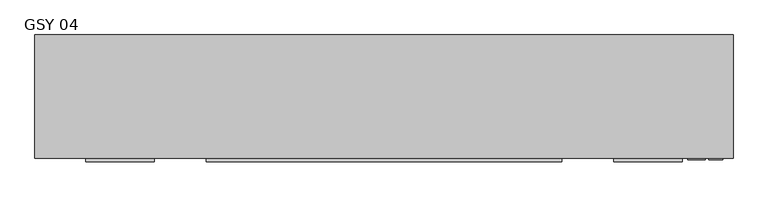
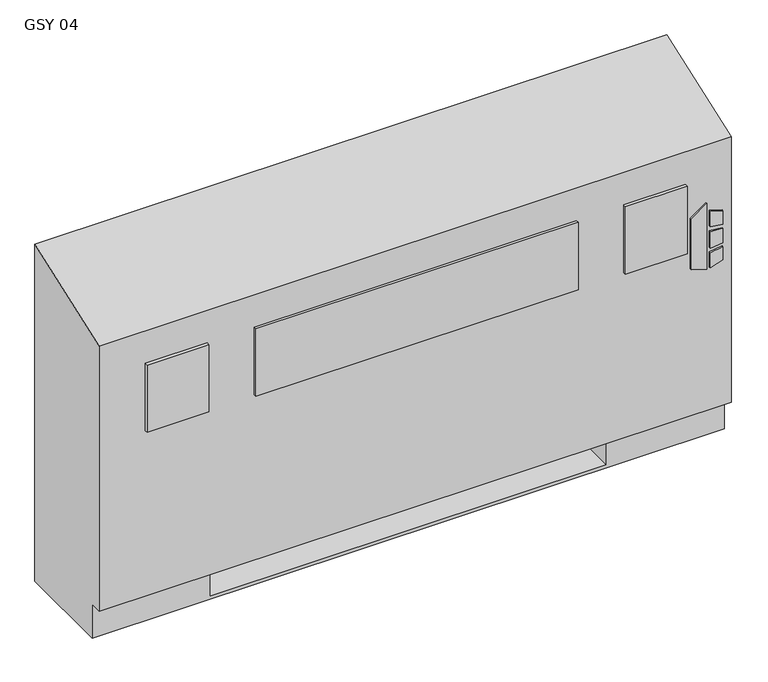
"""IFC4 building model written with IfcOpenShell, lengths in millimetres: proxy geometry, Vertical_Fan_Coil_Unit_-_GSY_-_IEC_-_2-Pipe_FS-FR_LH_2022 : GSY 04."""

from ifc_helpers import new_model, si_unit, point, frame, frame_2d, origin, place, context, project, spatial, polyline, circle_curve, trimmed, segment, composite_curve, outline, extrude, source, transform, mapped, element, save
from ifc_brep_helpers import plane_surface, revolved_surface, advanced_brep


def gsy_04_61f203fc(model_context):
    return source(origin(), model_context, "Body", "SolidModel", [
        extrude(outline(polyline([(391.6086829, 716.0368862), (381.6606126, 748.2102728), (523.831537, 748.2102728), (500.8095309, 716.0368862), (391.6086829, 716.0368862)])), frame((0.0, 12.7, 0.0), z_axis=(0.0, 1.0, 0.0), x_axis=(0.0, 0.0, 1.0)), (0.0, 0.0, 1.0), 3.175),
        extrude(outline(polyline([(470.6079683, 754.9686058), (467.4055757, 781.05), (496.6344168, 781.05), (504.6988318, 754.9686058), (470.6079683, 754.9686058)])), frame((0.0, 12.7, 0.0), z_axis=(0.0, 1.0, 0.0), x_axis=(0.0, 0.0, 1.0)), (0.0, 0.0, 1.0), 3.175),
        extrude(outline(polyline([(418.7444414, 781.05), (415.0789404, 754.9686058), (381.6606126, 754.9686058), (390.2948498, 781.05), (418.7444414, 781.05)])), frame((0.0, 12.7, 0.0), z_axis=(0.0, 1.0, 0.0), x_axis=(0.0, 0.0, 1.0)), (0.0, 0.0, 1.0), 3.175),
        extrude(outline(polyline([(458.0596028, 781.05), (460.3414292, 754.9686058), (424.4038806, 754.9686058), (427.1451456, 781.05), (458.0596028, 781.05)])), frame((0.0, 12.7, 0.0), z_axis=(0.0, 1.0, 0.0), x_axis=(0.0, 0.0, 1.0)), (0.0, 0.0, 1.0), 3.175),
        extrude(outline(polyline([(-274.193, 9.525), (-401.193, 9.525), (-401.193, 15.875), (-274.193, 15.875), (-274.193, 9.525)])), frame((0.0, 0.0, 431.8), z_axis=(0.0, 0.0, 1.0), x_axis=(1.0, 0.0, 0.0)), (0.0, 0.0, 1.0), 146.05),
        extrude(outline(polyline([(482.6, 9.525), (-177.8, 9.525), (-177.8, 15.875), (482.6, 15.875), (482.6, 9.525)])), frame((0.0, 0.0, 431.8), z_axis=(0.0, 0.0, 1.0), x_axis=(1.0, 0.0, 0.0)), (0.0, 0.0, 1.0), 146.05),
        extrude(outline(polyline([(705.993, 9.525), (578.993, 9.525), (578.993, 15.875), (705.993, 15.875), (705.993, 9.525)])), frame((0.0, 0.0, 431.8), z_axis=(0.0, 0.0, 1.0), x_axis=(1.0, 0.0, 0.0)), (0.0, 0.0, 1.0), 146.05),
        extrude(outline(polyline([(558.8, 81.534), (558.8, 223.266), (679.45, 223.266), (679.45, 81.534), (558.8, 81.534)])), frame((0.0, 0.0, 327.025), z_axis=(0.0, 0.0, 1.0), x_axis=(1.0, 0.0, 0.0)), (0.0, 0.0, 1.0), 260.35),
        extrude(outline(composite_curve([segment(trimmed(circle_curve(frame_2d((80.645, 397.002)), 7.9375), [point((80.645, 404.9395))], [point((80.645, 389.0645))], False, "CARTESIAN"), True, "CONTINUOUS"), segment(trimmed(circle_curve(frame_2d((80.645, 397.002)), 7.9375), [point((80.645, 389.0645))], [point((80.645, 404.9395))], False, "CARTESIAN"), True, "CONTINUOUS")], self_intersect=False)), frame((-304.8, 0.0, 0.0), z_axis=(1.0, 0.0, 0.0), x_axis=(0.0, 1.0, 0.0)), (0.0, 0.0, 1.0), 50.8),
        extrude(outline(composite_curve([segment(trimmed(circle_curve(frame_2d((156.8958, 535.8892)), 7.9375), [point((156.8958, 543.8267))], [point((156.8958, 527.9517))], False, "CARTESIAN"), True, "CONTINUOUS"), segment(trimmed(circle_curve(frame_2d((156.8958, 535.8892)), 7.9375), [point((156.8958, 527.9517))], [point((156.8958, 543.8267))], False, "CARTESIAN"), True, "CONTINUOUS")], self_intersect=False)), frame((-304.8, 0.0, 0.0), z_axis=(1.0, 0.0, 0.0), x_axis=(0.0, 1.0, 0.0)), (0.0, 0.0, 1.0), 50.8),
        advanced_brep(
        [(-495.3, 244.475, 0.0), (800.1, 244.475, 0.0), (800.1, 41.275, 0.0), (-495.3, 41.275, 0.0), (-495.3, 244.475, 730.25), (800.1, 244.475, 730.25), (558.8, 244.475, 73.025), (787.4, 244.475, 73.025), (787.4, 244.475, 654.05), (558.8, 244.475, 654.05), (558.8, 244.475, 414.8650565), (587.375, 244.475, 414.8650565), (587.375, 244.475, 385.2349435), (558.8, 244.475, 385.2349435), (558.8, 244.475, 287.3375), (587.375, 244.475, 287.3375), (587.375, 244.475, 258.7625), (558.8, 244.475, 258.7625), (558.8, 244.475, 141.2875), (587.375, 244.475, 141.2875), (587.375, 244.475, 112.7125), (558.8, 244.475, 112.7125), (-254.0, 244.475, 654.05), (-482.6, 244.475, 654.05), (-482.6, 244.475, 73.025), (-254.0, 244.475, 73.025), (-254.0, 244.475, 112.7125), (-282.575, 244.475, 112.7125), (-282.575, 244.475, 141.2875), (-254.0, 244.475, 141.2875), (-254.0, 244.475, 258.7625), (-282.575, 244.475, 258.7625), (-282.575, 244.475, 287.3375), (-254.0, 244.475, 287.3375), (-254.0, 244.475, 385.2349435), (-282.575, 244.475, 385.2349435), (-282.575, 244.475, 414.8650565), (-254.0, 244.475, 414.8650565), (577.0626, 244.475, 127.0), (565.9374, 244.475, 127.0), (577.0626, 244.475, 400.05), (565.9374, 244.475, 400.05), (577.0626, 244.475, 273.05), (565.9374, 244.475, 273.05), (-261.1374, 244.475, 127.0), (-272.2626, 244.475, 127.0), (-261.1374, 244.475, 273.05), (-272.2626, 244.475, 273.05), (-261.1374, 244.475, 400.05), (-272.2626, 244.475, 400.05), (-495.3, 41.275, 73.025), (-495.3, 15.875, 73.025), (-495.3, 15.875, 647.7), (800.1, 15.875, 73.025), (800.1, 15.875, 647.7), (800.1, 41.275, 73.025), (-254.0, 41.275, 73.025), (-254.0, 225.425, 73.025), (558.8, 225.425, 73.025), (558.8, 41.275, 73.025), (558.8, 41.275, 6.35), (-254.0, 41.275, 6.35), (558.8, 41.275, 654.05), (787.4, 41.275, 654.05), (787.4, 41.275, 73.025), (558.8, 41.275, 73.025), (-254.0, 41.275, 654.05), (-254.0, 41.275, 73.025), (-482.6, 41.275, 73.025), (-482.6, 41.275, 654.05), (558.8, 225.425, 73.025), (558.8, 238.125, 112.7125), (558.8, 238.125, 141.2875), (558.8, 238.125, 258.7625), (558.8, 238.125, 287.3375), (558.8, 238.125, 385.2349435), (558.8, 238.125, 414.8650565), (-254.0, 225.425, 73.025), (-254.0, 238.125, 414.8650565), (-254.0, 238.125, 385.2349435), (-254.0, 238.125, 287.3375), (-254.0, 238.125, 258.7625), (-254.0, 238.125, 141.2875), (-254.0, 238.125, 112.7125), (-254.0, 225.425, 6.35), (558.8, 225.425, 6.35), (587.375, 238.125, 112.7125), (587.375, 238.125, 141.2875), (565.9374, 238.125, 127.0), (577.0626, 238.125, 127.0), (587.375, 238.125, 258.7625), (587.375, 238.125, 287.3375), (565.9374, 238.125, 273.05), (577.0626, 238.125, 273.05), (587.375, 238.125, 385.2349435), (587.375, 238.125, 414.8650565), (565.9374, 238.125, 400.05), (577.0626, 238.125, 400.05), (-282.575, 238.125, 141.2875), (-282.575, 238.125, 112.7125), (-272.2626, 238.125, 127.0), (-261.1374, 238.125, 127.0), (-282.575, 238.125, 287.3375), (-282.575, 238.125, 258.7625), (-272.2626, 238.125, 273.05), (-261.1374, 238.125, 273.05), (-282.575, 238.125, 414.8650565), (-282.575, 238.125, 385.2349435), (-272.2626, 238.125, 400.05), (-261.1374, 238.125, 400.05)],
        [
            (0, 1),
            (1, 2),
            (2, 3),
            (3, 0),
            (0, 4),
            (4, 5),
            (5, 1),
            (6, 7),
            (7, 8),
            (8, 9),
            (9, 10),
            (10, 11),
            (11, 12),
            (12, 13),
            (13, 14),
            (14, 15),
            (15, 16),
            (16, 17),
            (17, 18),
            (18, 19),
            (19, 20),
            (20, 21),
            (21, 6),
            (22, 23),
            (23, 24),
            (24, 25),
            (25, 26),
            (26, 27),
            (27, 28),
            (28, 29),
            (29, 30),
            (30, 31),
            (31, 32),
            (32, 33),
            (33, 34),
            (34, 35),
            (35, 36),
            (36, 37),
            (37, 22),
            (38, 39, circle_curve(frame((571.5, 244.475, 127.0), z_axis=(0.0, -1.0, 0.0), x_axis=(-1.0, 0.0, 0.0)), 5.5626)),
            (39, 38, circle_curve(frame((571.5, 244.475, 127.0), z_axis=(0.0, -1.0, 0.0), x_axis=(-1.0, 0.0, 0.0)), 5.5626)),
            (40, 41, circle_curve(frame((571.5, 244.475, 400.05), z_axis=(0.0, -1.0, 0.0), x_axis=(-1.0, 0.0, 0.0)), 5.5626)),
            (41, 40, circle_curve(frame((571.5, 244.475, 400.05), z_axis=(0.0, -1.0, 0.0), x_axis=(-1.0, 0.0, 0.0)), 5.5626)),
            (42, 43, circle_curve(frame((571.5, 244.475, 273.05), z_axis=(0.0, -1.0, 0.0), x_axis=(-1.0, 0.0, 0.0)), 5.5626)),
            (43, 42, circle_curve(frame((571.5, 244.475, 273.05), z_axis=(0.0, -1.0, 0.0), x_axis=(-1.0, 0.0, 0.0)), 5.5626)),
            (44, 45, circle_curve(frame((-266.7, 244.475, 127.0), z_axis=(0.0, -1.0, 0.0), x_axis=(-1.0, 0.0, 0.0)), 5.5626)),
            (45, 44, circle_curve(frame((-266.7, 244.475, 127.0), z_axis=(0.0, -1.0, 0.0), x_axis=(-1.0, 0.0, 0.0)), 5.5626)),
            (46, 47, circle_curve(frame((-266.7, 244.475, 273.05), z_axis=(0.0, -1.0, 0.0), x_axis=(-1.0, 0.0, 0.0)), 5.5626)),
            (47, 46, circle_curve(frame((-266.7, 244.475, 273.05), z_axis=(0.0, -1.0, 0.0), x_axis=(-1.0, 0.0, 0.0)), 5.5626)),
            (48, 49, circle_curve(frame((-266.7, 244.475, 400.05), z_axis=(0.0, -1.0, 0.0), x_axis=(-1.0, 0.0, 0.0)), 5.5626)),
            (49, 48, circle_curve(frame((-266.7, 244.475, 400.05), z_axis=(0.0, -1.0, 0.0), x_axis=(-1.0, 0.0, 0.0)), 5.5626)),
            (3, 50),
            (50, 51),
            (51, 52),
            (52, 4),
            (51, 53),
            (53, 54),
            (54, 52),
            (5, 54),
            (53, 55),
            (55, 2),
            (50, 56),
            (56, 57),
            (57, 58),
            (58, 59),
            (59, 55),
            (59, 60),
            (60, 61),
            (61, 56),
            (62, 63),
            (63, 64),
            (64, 65),
            (65, 62),
            (66, 67),
            (67, 68),
            (68, 69),
            (69, 66),
            (65, 70),
            (70, 6),
            (21, 71),
            (71, 72),
            (72, 18),
            (17, 73),
            (73, 74),
            (74, 14),
            (13, 75),
            (75, 76),
            (76, 10),
            (9, 62),
            (64, 7),
            (63, 8),
            (69, 23),
            (22, 66),
            (68, 24),
            (67, 77),
            (77, 25),
            (37, 78),
            (78, 79),
            (79, 34),
            (33, 80),
            (80, 81),
            (81, 30),
            (29, 82),
            (82, 83),
            (83, 26),
            (57, 84),
            (84, 85),
            (85, 58),
            (85, 60),
            (84, 61),
            (71, 86),
            (86, 87),
            (87, 72),
            (88, 89, circle_curve(frame((571.5, 238.125, 127.0), z_axis=(0.0, 1.0, 0.0), x_axis=(-1.0, 0.0, 0.0)), 5.5626)),
            (89, 88, circle_curve(frame((571.5, 238.125, 127.0), z_axis=(0.0, 1.0, 0.0), x_axis=(-1.0, 0.0, 0.0)), 5.5626)),
            (73, 90),
            (90, 91),
            (91, 74),
            (92, 93, circle_curve(frame((571.5, 238.125, 273.05), z_axis=(0.0, 1.0, 0.0), x_axis=(-1.0, 0.0, 0.0)), 5.5626)),
            (93, 92, circle_curve(frame((571.5, 238.125, 273.05), z_axis=(0.0, 1.0, 0.0), x_axis=(-1.0, 0.0, 0.0)), 5.5626)),
            (75, 94),
            (94, 95),
            (95, 76),
            (96, 97, circle_curve(frame((571.5, 238.125, 400.05), z_axis=(0.0, 1.0, 0.0), x_axis=(-1.0, 0.0, 0.0)), 5.5626)),
            (97, 96, circle_curve(frame((571.5, 238.125, 400.05), z_axis=(0.0, 1.0, 0.0), x_axis=(-1.0, 0.0, 0.0)), 5.5626)),
            (98, 99),
            (99, 83),
            (82, 98),
            (100, 101, circle_curve(frame((-266.7, 238.125, 127.0), z_axis=(0.0, 1.0, 0.0), x_axis=(-1.0, 0.0, 0.0)), 5.5626)),
            (101, 100, circle_curve(frame((-266.7, 238.125, 127.0), z_axis=(0.0, 1.0, 0.0), x_axis=(-1.0, 0.0, 0.0)), 5.5626)),
            (102, 103),
            (103, 81),
            (80, 102),
            (104, 105, circle_curve(frame((-266.7, 238.125, 273.05), z_axis=(0.0, 1.0, 0.0), x_axis=(-1.0, 0.0, 0.0)), 5.5626)),
            (105, 104, circle_curve(frame((-266.7, 238.125, 273.05), z_axis=(0.0, 1.0, 0.0), x_axis=(-1.0, 0.0, 0.0)), 5.5626)),
            (106, 107),
            (107, 79),
            (78, 106),
            (108, 109, circle_curve(frame((-266.7, 238.125, 400.05), z_axis=(0.0, 1.0, 0.0), x_axis=(-1.0, 0.0, 0.0)), 5.5626)),
            (109, 108, circle_curve(frame((-266.7, 238.125, 400.05), z_axis=(0.0, 1.0, 0.0), x_axis=(-1.0, 0.0, 0.0)), 5.5626)),
            (87, 19),
            (86, 20),
            (91, 15),
            (90, 16),
            (95, 11),
            (94, 12),
            (28, 98),
            (99, 27),
            (32, 102),
            (103, 31),
            (36, 106),
            (107, 35),
            (88, 39),
            (38, 89),
            (96, 41),
            (40, 97),
            (92, 43),
            (42, 93),
            (100, 45),
            (44, 101),
            (104, 47),
            (46, 105),
            (108, 49),
            (48, 109),
        ],
        [
            plane_surface(frame((-495.3, 244.475, 0.0), z_axis=(0.0, 0.0, -1.0), x_axis=(1.0, 0.0, 0.0))),
            plane_surface(frame((800.1, 244.475, 730.25), z_axis=(0.0, 1.0, 0.0), x_axis=(0.0, 0.0, -1.0))),
            plane_surface(frame((-495.3, 244.475, 730.25), z_axis=(-1.0, 0.0, 0.0), x_axis=(0.0, 0.0, -1.0))),
            plane_surface(frame((-495.3, 15.875, 730.25), z_axis=(0.0, -1.0, 0.0), x_axis=(0.0, 0.0, -1.0))),
            plane_surface(frame((800.1, 15.875, 730.25), z_axis=(1.0, 0.0, 0.0), x_axis=(0.0, 0.0, -1.0))),
            plane_surface(frame((-495.3, 15.875, 73.025), z_axis=(0.0, 0.0, -1.0), x_axis=(1.0, 0.0, 0.0))),
            plane_surface(frame((-495.3, 41.275, 73.025), z_axis=(0.0, -1.0, 0.0), x_axis=(1.0, 0.0, 0.0))),
            plane_surface(frame((558.8, 41.275, 654.05), z_axis=(0.0, 1.0, 0.0), x_axis=(0.0, 0.0, -1.0))),
            plane_surface(frame((558.8, 41.275, 654.05), z_axis=(1.0, 0.0, 0.0), x_axis=(0.0, 1.0, 0.0))),
            plane_surface(frame((558.8, 41.275, 73.025), z_axis=(0.0, 0.0, 1.0), x_axis=(0.0, 1.0, 0.0))),
            plane_surface(frame((787.4, 41.275, 73.025), z_axis=(-1.0, 0.0, 0.0), x_axis=(0.0, 1.0, 0.0))),
            plane_surface(frame((787.4, 41.275, 654.05), z_axis=(0.0, 0.0, -1.0), x_axis=(0.0, 1.0, 0.0))),
            plane_surface(frame((-254.0, 41.275, 654.05), z_axis=(0.0, 0.0, -1.0), x_axis=(0.0, 1.0, 0.0))),
            plane_surface(frame((-482.6, 41.275, 654.05), z_axis=(1.0, 0.0, 0.0), x_axis=(0.0, 1.0, 0.0))),
            plane_surface(frame((-482.6, 41.275, 73.025), z_axis=(0.0, 0.0, 1.0), x_axis=(0.0, 1.0, 0.0))),
            plane_surface(frame((-254.0, 41.275, 73.025), z_axis=(-1.0, 0.0, 0.0), x_axis=(0.0, 1.0, 0.0))),
            plane_surface(frame((558.8, 225.425, 73.025), z_axis=(0.0, -1.0, 0.0), x_axis=(0.0, 0.0, -1.0))),
            plane_surface(frame((558.8, 225.425, 73.025), z_axis=(-1.0, 0.0, 0.0), x_axis=(0.0, -1.0, 0.0))),
            plane_surface(frame((558.8, 225.425, 6.35), z_axis=(0.0, 0.0, 1.0), x_axis=(0.0, -1.0, 0.0))),
            plane_surface(frame((-254.0, 225.425, 6.35), z_axis=(1.0, 0.0, 0.0), x_axis=(0.0, -1.0, 0.0))),
            plane_surface(frame((587.375, 238.125, 141.2875), z_axis=(0.0, -1.0, 0.0), x_axis=(-1.0, 0.0, 0.0))),
            plane_surface(frame((558.8, 244.475, 141.2875), z_axis=(0.0, 0.0, 1.0), x_axis=(0.0, -1.0, 0.0))),
            plane_surface(frame((587.375, 244.475, 141.2875), z_axis=(1.0, 0.0, 0.0), x_axis=(0.0, -1.0, 0.0))),
            plane_surface(frame((587.375, 244.475, 112.7125), z_axis=(0.0, 0.0, -1.0), x_axis=(0.0, -1.0, 0.0))),
            plane_surface(frame((558.8, 244.475, 287.3375), z_axis=(0.0, 0.0, 1.0), x_axis=(0.0, -1.0, 0.0))),
            plane_surface(frame((587.375, 244.475, 287.3375), z_axis=(1.0, 0.0, 0.0), x_axis=(0.0, -1.0, 0.0))),
            plane_surface(frame((587.375, 244.475, 258.7625), z_axis=(0.0, 0.0, -1.0), x_axis=(0.0, -1.0, 0.0))),
            plane_surface(frame((558.8, 244.475, 414.8650565), z_axis=(0.0, 0.0, 1.0), x_axis=(0.0, -1.0, 0.0))),
            plane_surface(frame((587.375, 244.475, 414.8650565), z_axis=(1.0, 0.0, 0.0), x_axis=(0.0, -1.0, 0.0))),
            plane_surface(frame((587.375, 244.475, 385.2349435), z_axis=(0.0, 0.0, -1.0), x_axis=(0.0, -1.0, 0.0))),
            plane_surface(frame((-282.575, 244.475, 141.2875), z_axis=(0.0, 0.0, 1.0), x_axis=(0.0, -1.0, 0.0))),
            plane_surface(frame((-254.0, 244.475, 112.7125), z_axis=(0.0, 0.0, -1.0), x_axis=(0.0, -1.0, 0.0))),
            plane_surface(frame((-282.575, 244.475, 112.7125), z_axis=(-1.0, 0.0, 0.0), x_axis=(0.0, -1.0, 0.0))),
            plane_surface(frame((-282.575, 244.475, 287.3375), z_axis=(0.0, 0.0, 1.0), x_axis=(0.0, -1.0, 0.0))),
            plane_surface(frame((-254.0, 244.475, 258.7625), z_axis=(0.0, 0.0, -1.0), x_axis=(0.0, -1.0, 0.0))),
            plane_surface(frame((-282.575, 244.475, 258.7625), z_axis=(-1.0, 0.0, 0.0), x_axis=(0.0, -1.0, 0.0))),
            plane_surface(frame((-282.575, 244.475, 414.8650565), z_axis=(0.0, 0.0, 1.0), x_axis=(0.0, -1.0, 0.0))),
            plane_surface(frame((-254.0, 244.475, 385.2349435), z_axis=(0.0, 0.0, -1.0), x_axis=(0.0, -1.0, 0.0))),
            plane_surface(frame((-282.575, 244.475, 385.2349435), z_axis=(-1.0, 0.0, 0.0), x_axis=(0.0, -1.0, 0.0))),
            revolved_surface(polyline([(565.9374, 238.125, 127.0), (565.9374, 244.475, 127.0)]), (571.5, 244.475, 127.0), (0.0, -1.0, 0.0)),
            revolved_surface(polyline([(565.9374, 238.125, 400.05), (565.9374, 244.475, 400.05)]), (571.5, 244.475, 400.05), (0.0, -1.0, 0.0)),
            revolved_surface(polyline([(565.9374, 238.125, 273.05), (565.9374, 244.475, 273.05)]), (571.5, 244.475, 273.05), (0.0, -1.0, 0.0)),
            revolved_surface(polyline([(-272.26259999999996, 238.125, 127.0), (-272.26259999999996, 244.475, 127.0)]), (-266.7, 244.475, 127.0), (0.0, -1.0, 0.0)),
            revolved_surface(polyline([(-272.26259999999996, 238.125, 273.05), (-272.26259999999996, 244.475, 273.05)]), (-266.7, 244.475, 273.05), (0.0, -1.0, 0.0)),
            revolved_surface(polyline([(-272.26259999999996, 238.125, 400.05), (-272.26259999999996, 244.475, 400.05)]), (-266.7, 244.475, 400.05), (0.0, -1.0, 0.0)),
            plane_surface(frame((-495.3, 244.475, 730.25), z_axis=(0.0, -0.33964446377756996, 0.9405538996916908), x_axis=(1.0, 0.0, 0.0))),
        ],
        [
            (0, [[1, 2, 3, 4]]),
            (1, [[-1, 5, 6, 7], [8, 9, 10, 11, 12, 13, 14, 15, 16, 17, 18, 19, 20, 21, 22, 23], [24, 25, 26, 27, 28, 29, 30, 31, 32, 33, 34, 35, 36, 37, 38, 39], [40, 41], [42, 43], [44, 45], [46, 47], [48, 49], [50, 51]]),
            (2, [[-5, -4, 52, 53, 54, 55]]),
            (3, [[56, 57, 58, -54]]),
            (4, [[-7, 59, -57, 60, 61, -2]]),
            (5, [[-53, 62, 63, 64, 65, 66, -60, -56]]),
            (6, [[-3, -61, -66, 67, 68, 69, -62, -52]]),
            (7, [[70, 71, 72, 73]]),
            (7, [[74, 75, 76, 77]]),
            (8, [[-73, 78, 79, -23, 80, 81, 82, -19, 83, 84, 85, -15, 86, 87, 88, -11, 89]]),
            (9, [[-72, 90, -8, -79, -78]]),
            (10, [[-71, 91, -9, -90]]),
            (11, [[-70, -89, -10, -91]]),
            (12, [[-77, 92, -24, 93]]),
            (13, [[-76, 94, -25, -92]]),
            (14, [[-75, 95, 96, -26, -94]]),
            (15, [[-74, -93, -39, 97, 98, 99, -35, 100, 101, 102, -31, 103, 104, 105, -27, -96, -95]]),
            (16, [[-64, 106, 107, 108]]),
            (17, [[-108, 109, -67, -65]]),
            (18, [[-107, 110, -68, -109]]),
            (19, [[-106, -63, -69, -110]]),
            (20, [[111, 112, 113, -81], [114, 115]]),
            (20, [[116, 117, 118, -84], [119, 120]]),
            (20, [[121, 122, 123, -87], [124, 125]]),
            (20, [[126, 127, -104, 128], [129, 130]]),
            (20, [[131, 132, -101, 133], [134, 135]]),
            (20, [[136, 137, -98, 138], [139, 140]]),
            (21, [[-113, 141, -20, -82]]),
            (22, [[-112, 142, -21, -141]]),
            (23, [[-111, -80, -22, -142]]),
            (24, [[-118, 143, -16, -85]]),
            (25, [[-117, 144, -17, -143]]),
            (26, [[-116, -83, -18, -144]]),
            (27, [[-123, 145, -12, -88]]),
            (28, [[-122, 146, -13, -145]]),
            (29, [[-121, -86, -14, -146]]),
            (30, [[-128, -103, -30, 147]]),
            (31, [[-127, 148, -28, -105]]),
            (32, [[-126, -147, -29, -148]]),
            (33, [[-133, -100, -34, 149]]),
            (34, [[-132, 150, -32, -102]]),
            (35, [[-131, -149, -33, -150]]),
            (36, [[-138, -97, -38, 151]]),
            (37, [[-137, 152, -36, -99]]),
            (38, [[-136, -151, -37, -152]]),
            (39, [[153, -40, 154, -114]]),
            (39, [[-153, -115, -154, -41]]),
            (40, [[155, -42, 156, -124]]),
            (40, [[-155, -125, -156, -43]]),
            (41, [[157, -44, 158, -119]]),
            (41, [[-157, -120, -158, -45]]),
            (42, [[159, -46, 160, -129]]),
            (42, [[-159, -130, -160, -47]]),
            (43, [[161, -48, 162, -134]]),
            (43, [[-161, -135, -162, -49]]),
            (44, [[163, -50, 164, -139]]),
            (44, [[-163, -140, -164, -51]]),
            (45, [[-6, -55, -58, -59]]),
        ],
    ),
    ])


if __name__ == "__main__":
    model = new_model("IFC4")
    model_context = context("Model", 3, world=origin())
    ifc_project = project(units=[si_unit("LENGTHUNIT", "METRE", prefix="MILLI")], contexts=[model_context])
    site = spatial("IfcSite", under=ifc_project)
    building = spatial("IfcBuilding", under=site)
    placement = place(None, origin())
    gsy_04_shape = gsy_04_61f203fc(model_context)
    element("IfcBuildingElementProxy", 1, Name="Vertical_Fan_Coil_Unit_-_GSY_-_IEC_-_2-Pipe_FS-FR_LH_2022 : GSY 04", ObjectType="Vertical_Fan_Coil_Unit_-_GSY_-_IEC_-_2-Pipe_FS-FR_LH_2022 : GSY 04", at=placement, inside=building, context=model_context, shape_type="MappedRepresentation", body=[
        mapped(gsy_04_shape, transform((0.0, 0.0, 0.0), x_axis=(1.0, 0.0, 0.0), y_axis=(0.0, 1.0, 0.0), z_axis=(0.0, 0.0, 1.0))),
    ])
    save(model, "model.ifc")
